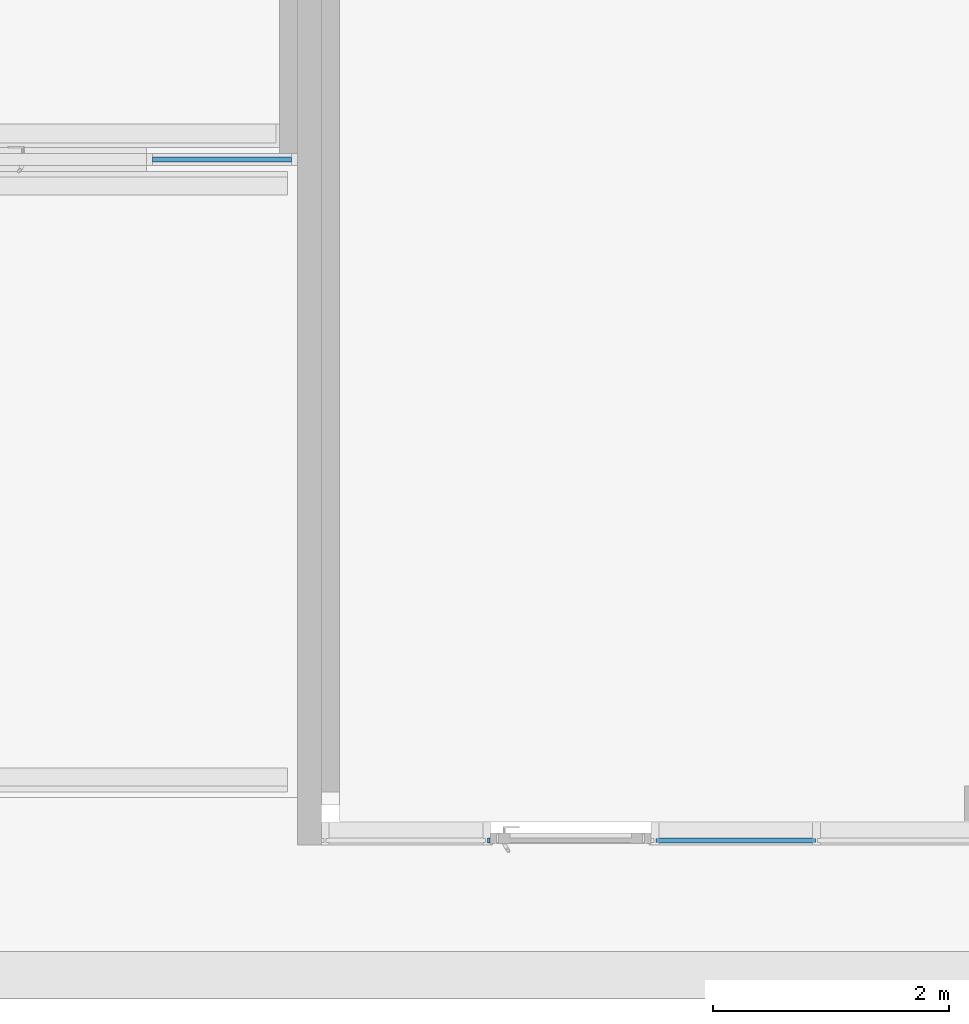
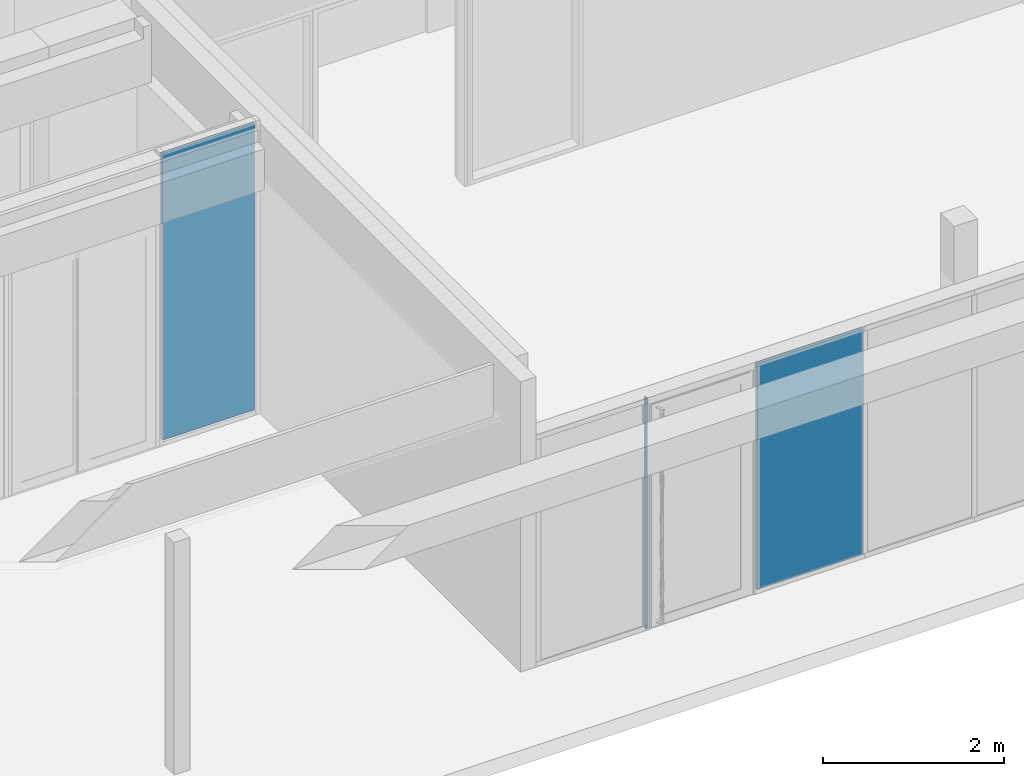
# One storey, part 69 of 240: 3 plates, 3 elements without a shape of their own.
"""IFC2X3 building model written with IfcOpenShell, lengths in centimetres."""

from ifc_helpers import new_model, entity, si_unit, converted_unit, derived_unit, direction, frame, frame_2d, origin, origin_2d_with_axis, place, context, subcontext, project, spatial, rectangle, extrude, source, transform, mapped, material, layer, layer_set, layer_usage, type_object, type_shapes, element, aggregate, save


model = new_model("IFC2X3")

# Units and contexts
model_context = context("Model", 3, precision=0.001, world=origin(), true_north=direction((6.12303176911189e-17, 1.0)))
body_context = subcontext(model_context, "Body", "Model", "MODEL_VIEW")
ifc_project = project(units=[si_unit("LENGTHUNIT", "METRE", prefix="CENTI"), si_unit("AREAUNIT", "SQUARE_METRE"), si_unit("VOLUMEUNIT", "CUBIC_METRE"), converted_unit("PLANEANGLEUNIT", "DEGREE", entity("IfcRatioMeasure", 0.0174532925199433), si_unit("PLANEANGLEUNIT", "RADIAN"), dimensions=[0, 0, 0, 0, 0, 0, 0]), si_unit("MASSUNIT", "GRAM", prefix="KILO"), derived_unit("MASSDENSITYUNIT", [(si_unit("MASSUNIT", "GRAM", prefix="KILO"), 1), (si_unit("LENGTHUNIT", "METRE"), -3)]), si_unit("TIMEUNIT", "SECOND"), si_unit("FREQUENCYUNIT", "HERTZ"), si_unit("THERMODYNAMICTEMPERATUREUNIT", "DEGREE_CELSIUS"), derived_unit("THERMALTRANSMITTANCEUNIT", [(si_unit("MASSUNIT", "GRAM", prefix="KILO"), 1), (si_unit("THERMODYNAMICTEMPERATUREUNIT", "KELVIN"), -1), (si_unit("TIMEUNIT", "SECOND"), -3)]), derived_unit("VOLUMETRICFLOWRATEUNIT", [(si_unit("LENGTHUNIT", "METRE"), 3), (si_unit("TIMEUNIT", "SECOND"), -1)]), si_unit("ELECTRICCURRENTUNIT", "AMPERE"), si_unit("ELECTRICVOLTAGEUNIT", "VOLT"), si_unit("POWERUNIT", "WATT"), si_unit("FORCEUNIT", "NEWTON", prefix="KILO"), si_unit("ILLUMINANCEUNIT", "LUX"), si_unit("LUMINOUSFLUXUNIT", "LUMEN"), si_unit("LUMINOUSINTENSITYUNIT", "CANDELA"), derived_unit("USERDEFINED", [(si_unit("MASSUNIT", "GRAM", prefix="KILO"), -1), (si_unit("LENGTHUNIT", "METRE"), -2), (si_unit("TIMEUNIT", "SECOND"), 3), (si_unit("LUMINOUSFLUXUNIT", "LUMEN"), 1)]), derived_unit("LINEARVELOCITYUNIT", [(si_unit("LENGTHUNIT", "METRE"), 1), (si_unit("TIMEUNIT", "SECOND"), -1)]), si_unit("PRESSUREUNIT", "PASCAL"), derived_unit("USERDEFINED", [(si_unit("LENGTHUNIT", "METRE"), -2), (si_unit("MASSUNIT", "GRAM", prefix="KILO"), 1), (si_unit("TIMEUNIT", "SECOND"), -2)])], contexts=[model_context])

# Site, building, storey
site_placement = place(None, frame((-2781.94577612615, 7442.24238424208, 0.0)))
site = spatial("IfcSite", under=ifc_project, at=site_placement, Name="Default", CompositionType="ELEMENT")
building_placement = place(site_placement, origin())
building = spatial("IfcBuilding", under=site, at=building_placement, CompositionType="ELEMENT")
storey_placement = place(building_placement, origin())
storey = spatial("IfcBuildingStorey", under=building, at=storey_placement, Name="N00 - COO", CompositionType="ELEMENT", Elevation=0.0)

# Curtain wall, plate
curtain_wall_type_1 = type_object("IfcCurtainWallType", Name="Mur-rideau:07 - mur rideau trame 140 cm", PredefinedType="NOTDEFINED")
curtain_wall_1_placement = place(building_placement, origin())
curtain_wall_1 = element("IfcCurtainWall", 1, at=curtain_wall_1_placement, inside=storey, type_object=curtain_wall_type_1, Name="Mur-rideau:07 - mur rideau trame 140 cm", ObjectType="Mur-rideau:07 - mur rideau trame 140 cm")
ifc_material = material(Name="Verre")
ifc_layer = layer(ifc_material, 4.0)
ifc_layer_set = layer_set([ifc_layer], Name="Panneau système:Vitré")
ifc_layer_usage_1 = layer_usage(ifc_layer_set, "AXIS3", "POSITIVE", 0.0)
plate_type_1 = type_object("IfcPlateType", Name="Vitré", PredefinedType="CURTAIN_PANEL", material=ifc_layer_set)
shared_shape_1 = source(origin(), body_context, "Body", "SweptSolid", [
    extrude(rectangle(XDim=4.0, YDim=135.01250003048, at=origin_2d_with_axis()), frame((0.0, 0.0, 0.0), z_axis=(0.0, 0.0, 1.0), x_axis=(0.0, 1.0, 0.0)), (0.0, 0.0, 1.0), 304.2625),
])
type_shapes(plate_type_1, [shared_shape_1])
plate_1_placement = place(curtain_wall_1_placement, frame((-3278.67488282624, -3046.51349958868, 4.11874999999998)))
plate_1 = element("IfcPlate", 2, at=plate_1_placement, type_object=plate_type_1, material=ifc_layer_usage_1, Name="Panneau système:Vitré", ObjectType="Panneau système:Vitré", context=body_context, shape_type="MappedRepresentation", body=[
    mapped(shared_shape_1, transform((0.0, 0.0, 0.0), scale=1.0)),
])
aggregate(curtain_wall_1, [plate_1])

curtain_wall_2_placement = place(building_placement, origin())
curtain_wall_2 = element("IfcCurtainWall", 3, at=curtain_wall_2_placement, inside=storey, type_object=curtain_wall_type_1, Name="Mur-rideau:07 - mur rideau trame 140 cm", ObjectType="Mur-rideau:07 - mur rideau trame 140 cm")
ifc_layer_usage_2 = layer_usage(ifc_layer_set, "AXIS3", "POSITIVE", 0.0)
plate_type_2 = type_object("IfcPlateType", Name="Vitré", PredefinedType="CURTAIN_PANEL", material=ifc_layer_set)
shared_shape_2 = source(origin(), body_context, "Body", "SweptSolid", [
    extrude(rectangle(XDim=4.0, YDim=1.9473209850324, at=origin_2d_with_axis()), frame((0.0, 0.0, 0.0), z_axis=(0.0, 0.0, 1.0), x_axis=(0.0, 1.0, 0.0)), (0.0, 0.0, 1.0), 312.5),
])
type_shapes(plate_type_2, [shared_shape_2])
plate_2_placement = place(curtain_wall_2_placement, frame((-3487.65746915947, -3046.51349958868, 0.0)))
plate_2 = element("IfcPlate", 4, at=plate_2_placement, type_object=plate_type_2, material=ifc_layer_usage_2, Name="Panneau système:Vitré", ObjectType="Panneau système:Vitré", context=body_context, shape_type="MappedRepresentation", body=[
    mapped(shared_shape_2, transform((0.0, 0.0, 0.0), scale=1.0)),
])
aggregate(curtain_wall_2, [plate_2])

curtain_wall_type_2 = type_object("IfcCurtainWallType", Name="Mur-rideau:07 - mur rideau vitrage sans recoupement 10cm", PredefinedType="NOTDEFINED")
curtain_wall_3_placement = place(building_placement, origin())
curtain_wall_3 = element("IfcCurtainWall", 5, at=curtain_wall_3_placement, inside=storey, type_object=curtain_wall_type_2, Name="Mur-rideau:07 - mur rideau vitrage sans recoupement 10cm", ObjectType="Mur-rideau:07 - mur rideau vitrage sans recoupement 10cm")
ifc_layer_usage_3 = layer_usage(ifc_layer_set, "AXIS3", "POSITIVE", 0.0)
plate_type_3 = type_object("IfcPlateType", Name="Vitré", PredefinedType="CURTAIN_PANEL", material=ifc_layer_set)
shared_shape_3 = source(origin(), body_context, "Body", "SweptSolid", [
    extrude(rectangle(XDim=4.0, YDim=117.76295473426, at=frame_2d((0.0, -3.5527136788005e-15), x_axis=(1.0, 0.0))), frame((0.0, 0.0, 0.0), z_axis=(0.0, 0.0, 1.0), x_axis=(0.0, 1.0, 0.0)), (0.0, 0.0, 1.0), 386.0),
])
type_shapes(plate_type_3, [shared_shape_3])
plate_3_placement = place(curtain_wall_3_placement, frame((-3713.3813570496, -2470.15656731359, 5.0), z_axis=(0.0, 0.0, 1.0), x_axis=(-1.0, 0.0, 0.0)))
plate_3 = element("IfcPlate", 6, at=plate_3_placement, type_object=plate_type_3, material=ifc_layer_usage_3, Name="Panneau système:Vitré", ObjectType="Panneau système:Vitré", context=body_context, shape_type="MappedRepresentation", body=[
    mapped(shared_shape_3, transform((0.0, 0.0, 0.0), scale=1.0)),
])
aggregate(curtain_wall_3, [plate_3])

save(model, "model.ifc")
